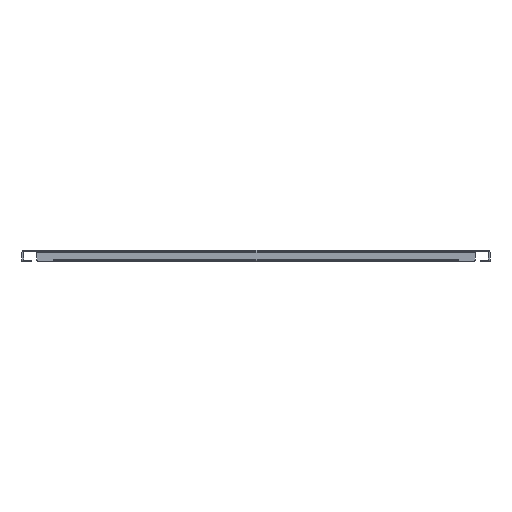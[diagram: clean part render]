
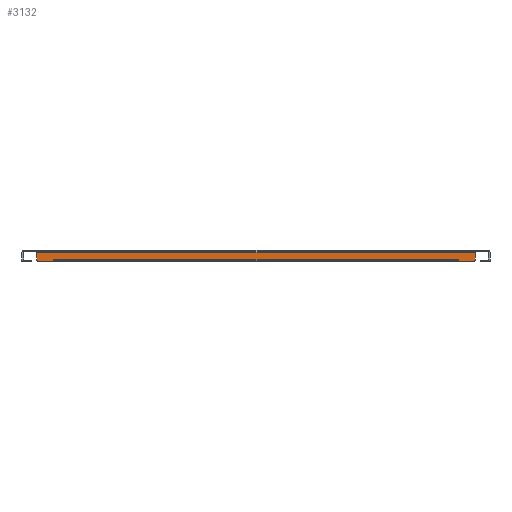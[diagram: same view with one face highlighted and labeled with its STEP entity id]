
A CAD part, front view. The second image highlights one B-rep face of the part: STEP entity #3132.
In plain terms, the highlighted planar face has unit normal (0, -1, 0).
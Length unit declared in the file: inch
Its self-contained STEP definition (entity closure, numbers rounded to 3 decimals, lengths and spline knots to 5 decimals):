
#82=PLANE('',#3407);
#200=FACE_OUTER_BOUND('',#390,.T.);
#390=EDGE_LOOP('',(#2467,#2468,#2469,#2470,#2471,#2472,#2473,#2474,#2475,
#2476,#2477,#2478,#2479,#2480));
#606=LINE('',#4836,#938);
#626=LINE('',#4904,#958);
#644=LINE('',#4965,#976);
#647=LINE('',#4970,#979);
#648=LINE('',#4974,#980);
#649=LINE('',#4976,#981);
#650=LINE('',#4978,#982);
#651=LINE('',#4980,#983);
#652=LINE('',#4982,#984);
#653=LINE('',#4984,#985);
#654=LINE('',#4986,#986);
#655=LINE('',#4987,#987);
#938=VECTOR('',#3897,0.3937);
#958=VECTOR('',#3951,0.3937);
#976=VECTOR('',#4001,0.3937);
#979=VECTOR('',#4006,0.3937);
#980=VECTOR('',#4009,0.3937);
#981=VECTOR('',#4010,0.3937);
#982=VECTOR('',#4011,0.3937);
#983=VECTOR('',#4012,0.3937);
#984=VECTOR('',#4013,0.3937);
#985=VECTOR('',#4014,0.3937);
#986=VECTOR('',#4015,0.3937);
#987=VECTOR('',#4016,0.3937);
#1233=CIRCLE('',#3405,0.125);
#1234=CIRCLE('',#3408,0.125);
#1409=VERTEX_POINT('',#4833);
#1410=VERTEX_POINT('',#4835);
#1440=VERTEX_POINT('',#4901);
#1441=VERTEX_POINT('',#4903);
#1467=VERTEX_POINT('',#4960);
#1468=VERTEX_POINT('',#4964);
#1470=VERTEX_POINT('',#4971);
#1471=VERTEX_POINT('',#4973);
#1472=VERTEX_POINT('',#4975);
#1473=VERTEX_POINT('',#4977);
#1474=VERTEX_POINT('',#4979);
#1475=VERTEX_POINT('',#4981);
#1476=VERTEX_POINT('',#4983);
#1477=VERTEX_POINT('',#4985);
#1772=EDGE_CURVE('',#1410,#1409,#606,.T.);
#1806=EDGE_CURVE('',#1441,#1440,#626,.T.);
#1835=EDGE_CURVE('',#1441,#1467,#1233,.T.);
#1837=EDGE_CURVE('',#1468,#1467,#644,.T.);
#1840=EDGE_CURVE('',#1410,#1440,#647,.T.);
#1841=EDGE_CURVE('',#1470,#1409,#1234,.T.);
#1842=EDGE_CURVE('',#1470,#1471,#648,.T.);
#1843=EDGE_CURVE('',#1471,#1472,#649,.T.);
#1844=EDGE_CURVE('',#1472,#1473,#650,.T.);
#1845=EDGE_CURVE('',#1473,#1474,#651,.T.);
#1846=EDGE_CURVE('',#1474,#1475,#652,.T.);
#1847=EDGE_CURVE('',#1475,#1476,#653,.T.);
#1848=EDGE_CURVE('',#1476,#1477,#654,.T.);
#1849=EDGE_CURVE('',#1477,#1468,#655,.T.);
#2467=ORIENTED_EDGE('',*,*,#1835,.F.);
#2468=ORIENTED_EDGE('',*,*,#1806,.T.);
#2469=ORIENTED_EDGE('',*,*,#1840,.F.);
#2470=ORIENTED_EDGE('',*,*,#1772,.T.);
#2471=ORIENTED_EDGE('',*,*,#1841,.F.);
#2472=ORIENTED_EDGE('',*,*,#1842,.T.);
#2473=ORIENTED_EDGE('',*,*,#1843,.T.);
#2474=ORIENTED_EDGE('',*,*,#1844,.T.);
#2475=ORIENTED_EDGE('',*,*,#1845,.T.);
#2476=ORIENTED_EDGE('',*,*,#1846,.T.);
#2477=ORIENTED_EDGE('',*,*,#1847,.T.);
#2478=ORIENTED_EDGE('',*,*,#1848,.T.);
#2479=ORIENTED_EDGE('',*,*,#1849,.T.);
#2480=ORIENTED_EDGE('',*,*,#1837,.T.);
#3132=ADVANCED_FACE('',(#200),#82,.F.);
#3405=AXIS2_PLACEMENT_3D('',#4961,#3996,#3997);
#3407=AXIS2_PLACEMENT_3D('',#4969,#4004,#4005);
#3408=AXIS2_PLACEMENT_3D('',#4972,#4007,#4008);
#3897=DIRECTION('',(0.,0.,-1.));
#3951=DIRECTION('',(0.,0.,1.));
#3996=DIRECTION('center_axis',(0.,1.,0.));
#3997=DIRECTION('ref_axis',(0.707,0.,-0.707));
#4001=DIRECTION('',(1.,0.,0.));
#4004=DIRECTION('center_axis',(0.,1.,0.));
#4005=DIRECTION('ref_axis',(0.,0.,1.));
#4006=DIRECTION('',(1.,0.,0.));
#4007=DIRECTION('center_axis',(0.,1.,0.));
#4008=DIRECTION('ref_axis',(-0.707,0.,-0.707));
#4009=DIRECTION('',(1.,0.,0.));
#4010=DIRECTION('',(0.,0.,1.));
#4011=DIRECTION('',(1.,0.,0.));
#4012=DIRECTION('',(0.,0.,-1.));
#4013=DIRECTION('',(1.,0.,0.));
#4014=DIRECTION('',(0.,0.,1.));
#4015=DIRECTION('',(1.,0.,0.));
#4016=DIRECTION('',(0.,0.,-1.));
#4833=CARTESIAN_POINT('',(-9.4375,-12.5,-0.319));
#4835=CARTESIAN_POINT('',(-9.4375,-12.5,-0.031));
#4836=CARTESIAN_POINT('',(-9.4375,-12.5,0.068));
#4901=CARTESIAN_POINT('',(9.4375,-12.5,-0.031));
#4903=CARTESIAN_POINT('',(9.4375,-12.5,-0.319));
#4904=CARTESIAN_POINT('',(9.4375,-12.5,-0.444));
#4960=CARTESIAN_POINT('',(9.3125,-12.5,-0.444));
#4961=CARTESIAN_POINT('Origin',(9.3125,-12.5,-0.319));
#4964=CARTESIAN_POINT('',(8.6877,-12.5,-0.444));
#4965=CARTESIAN_POINT('',(-9.4375,-12.5,-0.444));
#4969=CARTESIAN_POINT('Origin',(0.,-12.5,-0.188));
#4970=CARTESIAN_POINT('',(9.4375,-12.5,-0.031));
#4971=CARTESIAN_POINT('',(-9.3125,-12.5,-0.444));
#4972=CARTESIAN_POINT('Origin',(-9.3125,-12.5,-0.319));
#4973=CARTESIAN_POINT('',(-8.6877,-12.5,-0.444));
#4974=CARTESIAN_POINT('',(-9.4375,-12.5,-0.444));
#4975=CARTESIAN_POINT('',(-8.6877,-12.5,-0.3448));
#4976=CARTESIAN_POINT('',(-8.6877,-12.5,-0.316));
#4977=CARTESIAN_POINT('',(-8.6875,-12.5,-0.3448));
#4978=CARTESIAN_POINT('',(-4.34385,-12.5,-0.3448));
#4979=CARTESIAN_POINT('',(-8.6875,-12.5,-0.345));
#4980=CARTESIAN_POINT('',(-8.6875,-12.5,-0.2664));
#4981=CARTESIAN_POINT('',(8.6875,-12.5,-0.345));
#4982=CARTESIAN_POINT('',(4.34375,-12.5,-0.345));
#4983=CARTESIAN_POINT('',(8.6875,-12.5,-0.3448));
#4984=CARTESIAN_POINT('',(8.6875,-12.5,-0.316));
#4985=CARTESIAN_POINT('',(8.6877,-12.5,-0.3448));
#4986=CARTESIAN_POINT('',(4.34375,-12.5,-0.3448));
#4987=CARTESIAN_POINT('',(8.6877,-12.5,-0.2664));
